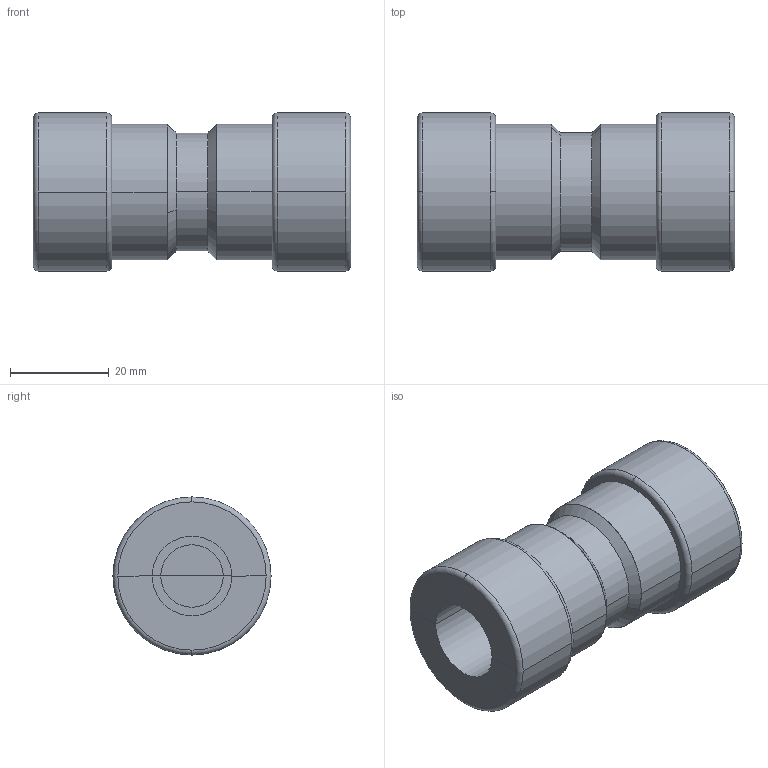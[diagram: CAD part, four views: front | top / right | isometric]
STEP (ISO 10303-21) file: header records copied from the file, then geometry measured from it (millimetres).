
FILE_DESCRIPTION (( 'STEP AP203' ), '1' );
FILE_NAME ('Viega_MegaPress FKM_Coupling, Transition 5915ZL - 1_2in.STEP', '2025-02-21T22:21:30', ( '' ), ( '' ), 'SwSTEP 2.0', 'SolidWorks 2020', '' );
FILE_SCHEMA (( 'CONFIG_CONTROL_DESIGN' ));
Length unit declared in the file: millimetre
Products named in the file (1): Viega_MegaPress FKM_Coupling, Transition 5915ZL - 1_2in
Bounding box: 64.4 x 32.1 x 32.1 mm (x, y, z)
Volume: 33981 mm3; surface area: 13159 mm2
Topology: 5 solids, 5 shells, 50 faces, 116 edges, 72 vertices
Faces by surface type: plane 20, cylinder 18, torus 8, cone 4
Entity records: 1529 total; most frequent: DIRECTION 298, CARTESIAN_POINT 239, ORIENTED_EDGE 232, AXIS2_PLACEMENT_3D 131, EDGE_CURVE 116, CIRCLE 80, VERTEX_POINT 72, EDGE_LOOP 50
